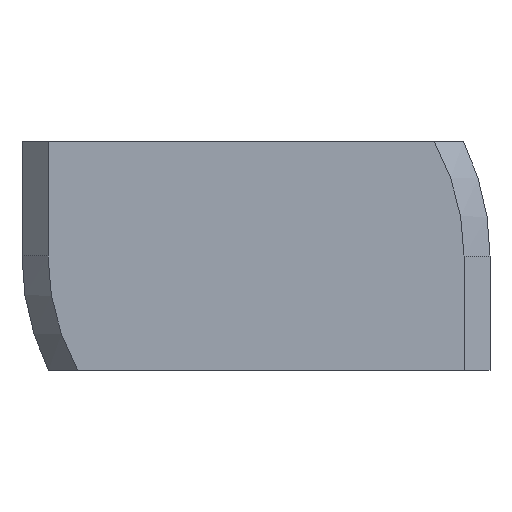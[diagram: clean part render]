
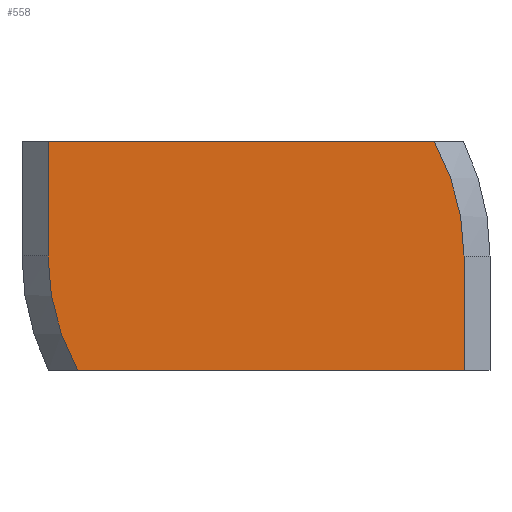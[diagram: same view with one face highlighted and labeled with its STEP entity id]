
A CAD part, front view. The second image highlights one B-rep face of the part: STEP entity #558.
In plain terms, the highlighted planar face has unit normal (0, -1, 0).
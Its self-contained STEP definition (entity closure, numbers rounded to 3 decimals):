
#141=CARTESIAN_POINT('',(1.,-5.5,0.));
#142=DIRECTION('',(0.,1.,0.));
#143=DIRECTION('',(-0.872,0.,-0.489));
#144=AXIS2_PLACEMENT_3D('',#141,#142,#143);
#158=DIRECTION('',(1.,0.,0.));
#159=VECTOR('',#158,14.851);
#160=CARTESIAN_POINT('',(-6.851,-5.5,-4.4));
#161=LINE('',#160,#159);
#162=DIRECTION('',(-1.,0.,0.));
#163=VECTOR('',#162,14.851);
#164=CARTESIAN_POINT('',(6.851,-5.5,4.4));
#165=LINE('',#164,#163);
#166=DIRECTION('',(0.,0.,-1.));
#167=VECTOR('',#166,4.4);
#168=CARTESIAN_POINT('',(-8.,-5.5,4.4));
#169=LINE('',#168,#167);
#190=CARTESIAN_POINT('',(-1.,-5.5,0.));
#191=DIRECTION('',(0.,1.,0.));
#192=DIRECTION('',(0.872,0.,0.489));
#193=AXIS2_PLACEMENT_3D('',#190,#191,#192);
#215=DIRECTION('',(0.,0.,1.));
#216=VECTOR('',#215,4.4);
#217=CARTESIAN_POINT('',(8.,-5.5,-4.4));
#218=LINE('',#217,#216);
#295=CARTESIAN_POINT('',(6.851,-5.5,4.4));
#296=CARTESIAN_POINT('',(8.,-5.5,0.));
#297=VERTEX_POINT('',#295);
#298=VERTEX_POINT('',#296);
#303=CARTESIAN_POINT('',(8.,-5.5,-4.4));
#304=VERTEX_POINT('',#303);
#307=CARTESIAN_POINT('',(-6.851,-5.5,-4.4));
#308=CARTESIAN_POINT('',(-8.,-5.5,0.));
#309=VERTEX_POINT('',#307);
#310=VERTEX_POINT('',#308);
#315=CARTESIAN_POINT('',(-8.,-5.5,4.4));
#316=VERTEX_POINT('',#315);
#542=CARTESIAN_POINT('',(0.,-5.5,0.));
#543=DIRECTION('',(0.,-1.,0.));
#544=DIRECTION('',(1.,0.,0.));
#545=AXIS2_PLACEMENT_3D('',#542,#543,#544);
#546=PLANE('',#545);
#547=ORIENTED_EDGE('',*,*,#499,.F.);
#548=ORIENTED_EDGE('',*,*,#533,.T.);
#550=ORIENTED_EDGE('',*,*,#549,.F.);
#551=ORIENTED_EDGE('',*,*,#437,.F.);
#553=ORIENTED_EDGE('',*,*,#552,.T.);
#555=ORIENTED_EDGE('',*,*,#554,.F.);
#556=EDGE_LOOP('',(#547,#548,#550,#551,#553,#555));
#557=FACE_OUTER_BOUND('',#556,.F.);
#558=ADVANCED_FACE('',(#557),#546,.T.);
#145=CIRCLE('',#144,9.);
#194=CIRCLE('',#193,9.);
#437=EDGE_CURVE('',#297,#316,#165,.T.);
#499=EDGE_CURVE('',#309,#304,#161,.T.);
#533=EDGE_CURVE('',#309,#310,#145,.T.);
#549=EDGE_CURVE('',#316,#310,#169,.T.);
#552=EDGE_CURVE('',#297,#298,#194,.T.);
#554=EDGE_CURVE('',#304,#298,#218,.T.);
